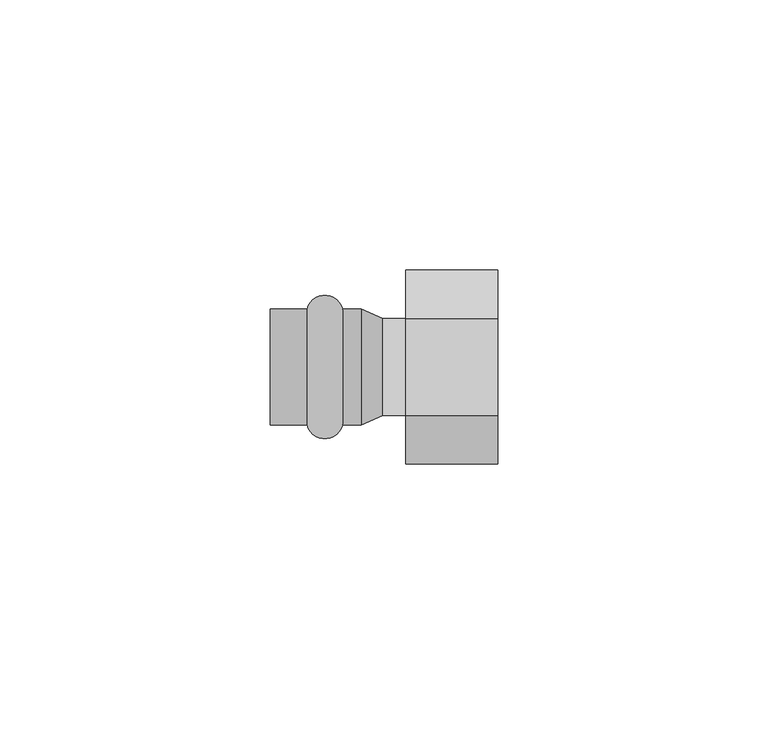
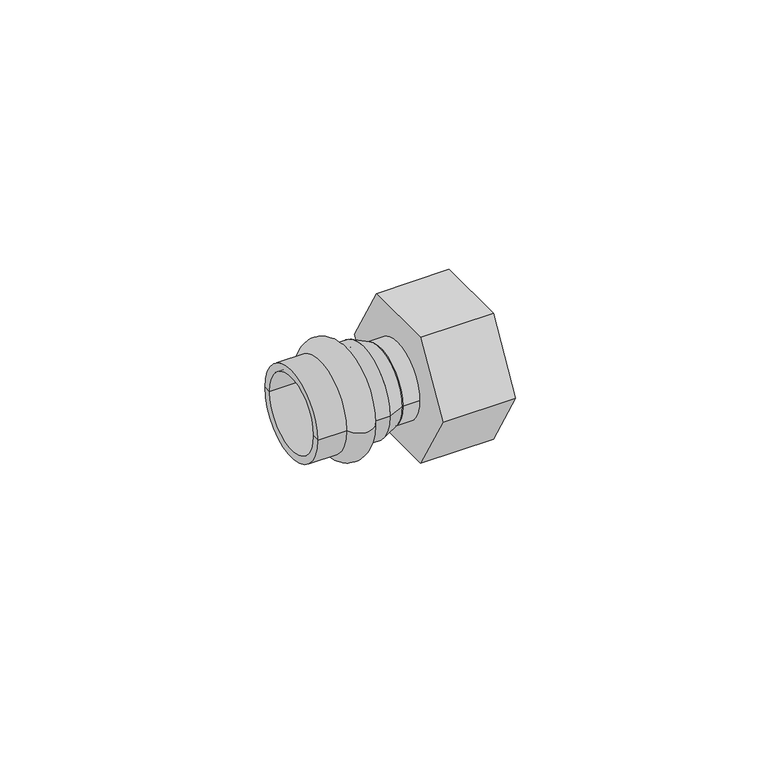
"""IFC4 building model written with IfcOpenShell, lengths in millimetres: pipe fitting geometry, VALTEC_VTi.908.I_Соединитель с накидной гайкой_Нержавеющая сталь : VTi.908.I."""

from ifc_helpers import new_model, si_unit, point, frame, origin, origin_2d, place, context, project, spatial, polyline, circle_curve, ellipse_curve, trimmed, segment, composite_curve, outline, extrude, source, transform, mapped, element, save
from ifc_brep_helpers import plane_surface, cylinder_surface, revolved_surface, advanced_brep


def pipe_fitting_79bc4e40(model_context):
    return source(origin(), model_context, "Body", "SolidModel", [
        advanced_brep(
        [(-26.7287193, -10.75, 0.0), (-26.7287193, 10.75, 0.0), (-20.1712807, 10.75, 0.0), (-20.1712807, -10.75, 0.0), (-33.5, -10.75, 0.0), (-33.5, 10.75, 0.0), (-33.5, -9.0, 0.0), (-33.5, 9.0, 0.0), (-16.7, -9.0, 0.0), (-16.7, 9.0, 0.0), (-16.7, -10.75, 0.0), (-16.7, 10.75, 0.0)],
        [
            (0, 1, circle_curve(frame((-26.7287193, 0.0, 0.0), z_axis=(1.0, 0.0, 0.0), x_axis=(0.0, 1.0, 0.0)), 10.75)),
            (1, 2, circle_curve(frame((-23.45, 9.85, 0.0), z_axis=(0.0, 0.0, -1.0), x_axis=(1.0, 0.0, 0.0)), 3.4)),
            (2, 3, circle_curve(frame((-20.1712807, 0.0, 0.0), z_axis=(-1.0, 0.0, 0.0), x_axis=(0.0, 1.0, 0.0)), 10.75)),
            (3, 0, circle_curve(frame((-23.45, -9.85, 0.0), z_axis=(0.0, 0.0, -1.0), x_axis=(1.0, 0.0, 0.0)), 3.4)),
            (1, 0, circle_curve(frame((-26.7287193, 0.0, 0.0), z_axis=(1.0, 0.0, 0.0), x_axis=(0.0, 1.0, 0.0)), 10.75)),
            (3, 2, circle_curve(frame((-20.1712807, 0.0, 0.0), z_axis=(-1.0, 0.0, 0.0), x_axis=(0.0, 1.0, 0.0)), 10.75)),
            (4, 5, circle_curve(frame((-33.5, 0.0, 0.0), z_axis=(1.0, 0.0, 0.0), x_axis=(0.0, 1.0, 0.0)), 10.75)),
            (5, 1),
            (0, 4),
            (5, 4, circle_curve(frame((-33.5, 0.0, 0.0), z_axis=(1.0, 0.0, 0.0), x_axis=(0.0, 1.0, 0.0)), 10.75)),
            (6, 7, circle_curve(frame((-33.5, 0.0, 0.0), z_axis=(1.0, 0.0, 0.0), x_axis=(0.0, 1.0, 0.0)), 9.0)),
            (7, 5),
            (4, 6),
            (7, 6, circle_curve(frame((-33.5, 0.0, 0.0), z_axis=(1.0, 0.0, 0.0), x_axis=(0.0, 1.0, 0.0)), 9.0)),
            (8, 9, circle_curve(frame((-16.7, 0.0, 0.0), z_axis=(1.0, 0.0, 0.0), x_axis=(0.0, 1.0, 0.0)), 9.0)),
            (9, 7),
            (6, 8),
            (9, 8, circle_curve(frame((-16.7, 0.0, 0.0), z_axis=(1.0, 0.0, 0.0), x_axis=(0.0, 1.0, 0.0)), 9.0)),
            (10, 11, circle_curve(frame((-16.7, 0.0, 0.0), z_axis=(1.0, 0.0, 0.0), x_axis=(0.0, 1.0, 0.0)), 10.75)),
            (11, 9),
            (8, 10),
            (11, 10, circle_curve(frame((-16.7, 0.0, 0.0), z_axis=(1.0, 0.0, 0.0), x_axis=(0.0, 1.0, 0.0)), 10.75)),
            (2, 11),
            (10, 3),
        ],
        [
            revolved_surface(trimmed(ellipse_curve(frame((-23.45, 9.85, 0.0), z_axis=(0.0, 0.0, 1.0), x_axis=(1.0, 0.0, 0.0)), 3.4, 3.4), [point((-20.1712807, 10.75, 0.0))], [point((-26.7287193, 10.75, 0.0))], True, "CARTESIAN"), (-37.0364426, 0.0, 0.0), (-1.0, 0.0, 0.0)),
            cylinder_surface(frame((-37.0364426, 0.0, 0.0), z_axis=(-1.0, 0.0, 0.0), x_axis=(0.0, 1.0, 0.0)), 10.75),
            plane_surface(frame((-33.5, 0.0, 0.0), z_axis=(-1.0, 0.0, 0.0), x_axis=(0.0, 1.0, 0.0))),
            revolved_surface(polyline([(-33.5, 9.0, 0.0), (-16.7, 9.0, 0.0)]), (-37.0364426, 0.0, 0.0), (-1.0, 0.0, 0.0)),
            plane_surface(frame((-16.7, 0.0, 0.0), z_axis=(1.0, 0.0, 0.0), x_axis=(0.0, 1.0, 0.0))),
        ],
        [
            (0, [[1, 2, 3, 4]]),
            (0, [[5, -4, 6, -2]]),
            (1, [[7, 8, -1, 9]]),
            (1, [[10, -9, -5, -8]]),
            (2, [[11, 12, -7, 13]]),
            (2, [[14, -13, -10, -12]]),
            (3, [[15, 16, -11, 17]]),
            (3, [[18, -17, -14, -16]]),
            (4, [[19, 20, -15, 21]]),
            (4, [[22, -21, -18, -20]]),
            (1, [[-3, 23, -19, 24]]),
            (1, [[-6, -24, -22, -23]]),
        ],
    ),
        extrude(outline(polyline([(-17.8978583, 0.0), (-8.9489292, 15.5), (8.9489292, 15.5), (17.8978583, 0.0), (8.9489292, -15.5), (-8.9489292, -15.5), (-17.8978583, 0.0)])), frame((-8.5, 0.0, 0.0), z_axis=(1.0, 0.0, 0.0), x_axis=(0.0, 1.0, 0.0)), (0.0, 0.0, 1.0), 17.0),
        extrude(outline(composite_curve([segment(trimmed(circle_curve(origin_2d(), 9.0), [point((-9.0, 0.0))], [point((9.0, 0.0))], False, "CARTESIAN"), True, "CONTINUOUS"), segment(trimmed(circle_curve(origin_2d(), 9.0), [point((9.0, 0.0))], [point((-9.0, 0.0))], False, "CARTESIAN"), True, "CONTINUOUS")], self_intersect=False)), frame((-12.7, 0.0, 0.0), z_axis=(1.0, 0.0, 0.0), x_axis=(0.0, 1.0, 0.0)), (0.0, 0.0, 1.0), 4.2),
        advanced_brep(
        [(-12.7, -9.0, 0.0), (-12.7, 9.0, 0.0), (-16.7, -10.75, 0.0), (-16.7, 10.75, 0.0)],
        [
            (0, 1, circle_curve(frame((-12.7, 0.0, 0.0), z_axis=(1.0, 0.0, 0.0), x_axis=(0.0, -1.0, 0.0)), 9.0)),
            (1, 0, circle_curve(frame((-12.7, 0.0, 0.0), z_axis=(1.0, 0.0, 0.0), x_axis=(0.0, 1.0, 0.0)), 9.0)),
            (2, 3, circle_curve(frame((-16.7, 0.0, 0.0), z_axis=(-1.0, 0.0, 0.0), x_axis=(0.0, 1.0, 0.0)), 10.75)),
            (3, 2, circle_curve(frame((-16.7, 0.0, 0.0), z_axis=(-1.0, 0.0, 0.0), x_axis=(0.0, -1.0, 0.0)), 10.75)),
            (3, 1),
            (0, 2),
        ],
        [
            plane_surface(frame((-12.7, 0.0, 0.0), z_axis=(1.0, 0.0, 0.0), x_axis=(0.0, 0.0, -1.0))),
            plane_surface(frame((-16.7, 0.0, 0.0), z_axis=(-1.0, 0.0, 0.0), x_axis=(0.0, 0.0, -1.0))),
            revolved_surface(polyline([(-12.699999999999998, -9.000000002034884, 0.0), (-16.699999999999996, -10.75, 0.0)]), (7.8714286, 0.0, 0.0), (-1.0, 0.0, 0.0)),
            revolved_surface(polyline([(-12.699999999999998, 9.000000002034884, 0.0), (-16.699999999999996, 10.75, 0.0)]), (7.8714286, 0.0, 0.0), (-1.0, 0.0, 0.0)),
        ],
        [
            (0, [[1, 2]]),
            (1, [[3, 4]]),
            (2, [[-4, 5, -1, 6]]),
            (3, [[-3, -6, -2, -5]]),
        ],
    ),
    ])


if __name__ == "__main__":
    model = new_model("IFC4")
    model_context = context("Model", 3, world=origin())
    ifc_project = project(units=[si_unit("LENGTHUNIT", "METRE", prefix="MILLI")], contexts=[model_context])
    site = spatial("IfcSite", under=ifc_project)
    building = spatial("IfcBuilding", under=site)
    placement = place(None, origin())
    pipe_fitting_shape = pipe_fitting_79bc4e40(model_context)
    element("IfcPipeFitting", 1, ObjectType="VALTEC_VTi.908.I_Соединитель с накидной гайкой_Нержавеющая сталь : VTi.908.I", at=placement, inside=building, context=model_context, shape_type="MappedRepresentation", body=[
        mapped(pipe_fitting_shape, transform((0.0, 0.0, 0.0), x_axis=(1.0, 0.0, 0.0), y_axis=(0.0, 1.0, 0.0), z_axis=(0.0, 0.0, 1.0))),
    ])
    save(model, "model.ifc")
